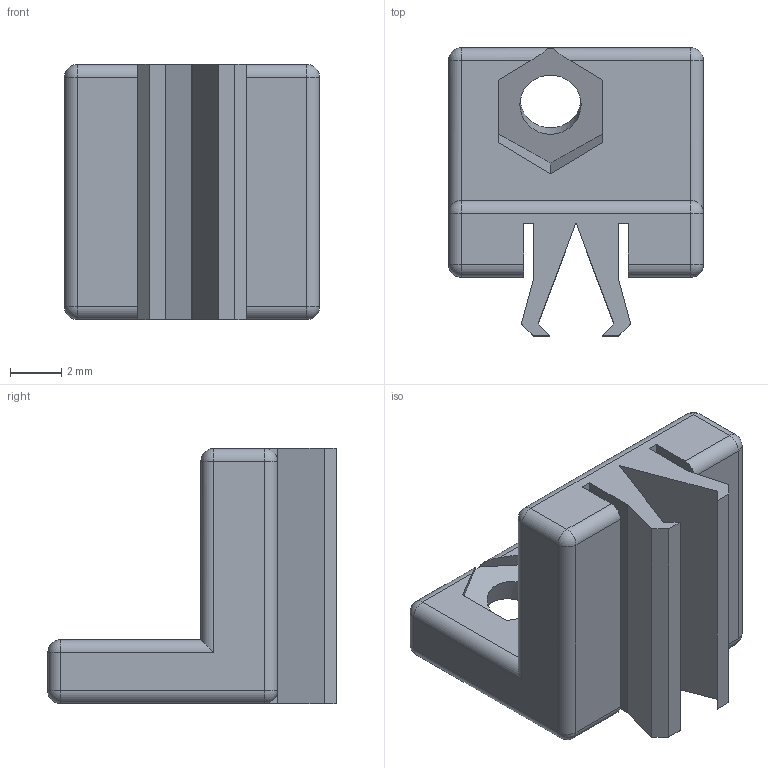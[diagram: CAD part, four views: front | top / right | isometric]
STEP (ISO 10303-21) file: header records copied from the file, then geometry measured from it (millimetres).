
FILE_DESCRIPTION(/* description */ (''),/* implementation_level */ '2;1');
FILE_NAME(/* name */ 'C:/Users/priba/Downloads/Brick1x1l4_15deg.step',/* time_stamp */ '2022-04-03T10:19:55+02:00',/* author */ (''),/* organization */ (''),/* preprocessor_version */ 'ST-DEVELOPER v18.1',/* originating_system */ 'Autodesk Translation Framework v10.13.0.1454',/* authorisation */ '');
FILE_SCHEMA (('AUTOMOTIVE_DESIGN { 1 0 10303 214 3 1 1 }'));
Length unit declared in the file: millimetre
Products named in the file (1): Brick1x1l4_15deg
Bounding box: 10 x 11.31 x 10 mm (x, y, z)
Volume: 416.7 mm3; surface area: 673.5 mm2
Topology: 1 solids, 1 shells, 71 faces, 175 edges, 106 vertices
Faces by surface type: plane 40, cylinder 21, sphere 10
Full cylindrical faces by diameter (mm): 2.4 x1
Entity records: 2081 total; most frequent: DIRECTION 361, CARTESIAN_POINT 353, ORIENTED_EDGE 350, EDGE_CURVE 175, LINE 133, VECTOR 133, AXIS2_PLACEMENT_3D 114, VERTEX_POINT 106
